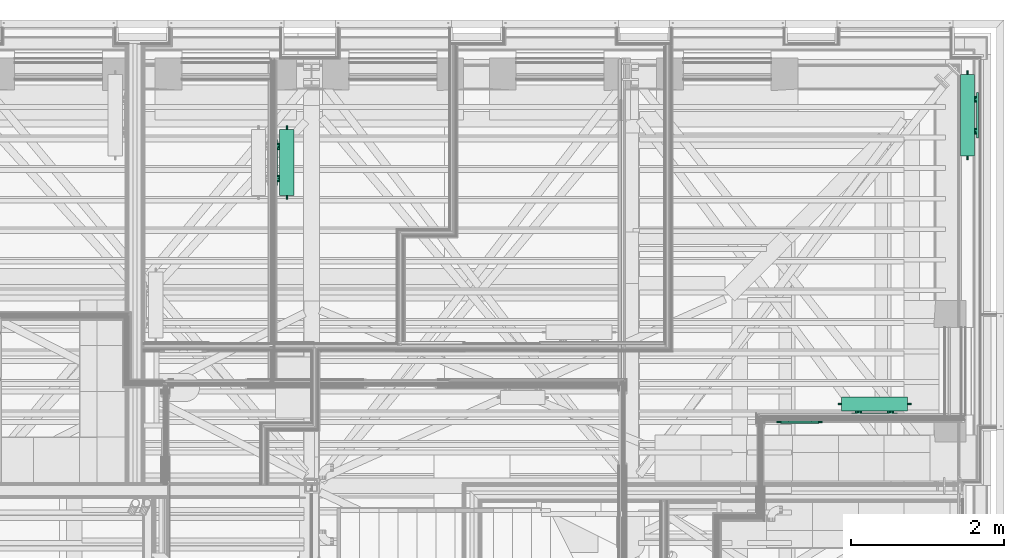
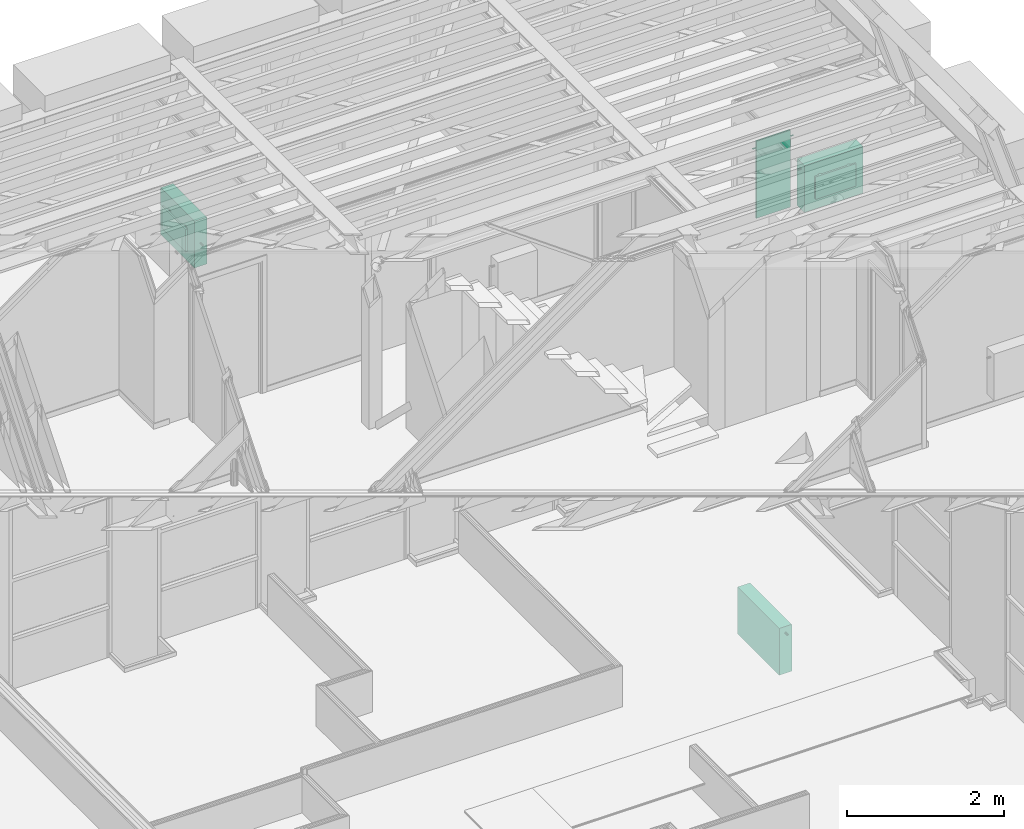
# One storey, part 169 of 183: 4 flow terminals.
"""IFC2X3 building model written with IfcOpenShell, lengths in metres."""

from ifc_helpers import new_model, entity, si_unit, converted_unit, derived_unit, money_unit, direction, frame, origin_with_axes, place, context, subcontext, project, spatial, open_shell, surface_model, material, type_object, element, save


model = new_model("IFC2X3")

# Units and contexts
model_context = context("Model", 3, precision=1e-05, world=origin_with_axes(), true_north=direction((0.0, 1.0)))
body_context = subcontext(model_context, "Body", "Model", "MODEL_VIEW", scale=1.0)
ifc_project = project(units=[si_unit("LENGTHUNIT", "METRE"), si_unit("AREAUNIT", "SQUARE_METRE"), si_unit("VOLUMEUNIT", "CUBIC_METRE"), si_unit("ABSORBEDDOSEUNIT", "GRAY"), si_unit("AMOUNTOFSUBSTANCEUNIT", "MOLE"), si_unit("DOSEEQUIVALENTUNIT", "SIEVERT"), si_unit("ELECTRICCAPACITANCEUNIT", "FARAD"), si_unit("ELECTRICCHARGEUNIT", "COULOMB"), si_unit("ELECTRICCONDUCTANCEUNIT", "SIEMENS"), si_unit("ELECTRICCURRENTUNIT", "AMPERE"), si_unit("ELECTRICRESISTANCEUNIT", "OHM"), si_unit("ELECTRICVOLTAGEUNIT", "VOLT"), si_unit("ENERGYUNIT", "JOULE"), si_unit("FORCEUNIT", "NEWTON"), si_unit("FREQUENCYUNIT", "HERTZ"), si_unit("ILLUMINANCEUNIT", "LUX"), si_unit("INDUCTANCEUNIT", "HENRY"), si_unit("LUMINOUSFLUXUNIT", "LUMEN"), si_unit("LUMINOUSINTENSITYUNIT", "CANDELA"), si_unit("MAGNETICFLUXDENSITYUNIT", "TESLA"), si_unit("MAGNETICFLUXUNIT", "WEBER"), si_unit("MASSUNIT", "GRAM"), converted_unit("PLANEANGLEUNIT", "degree", entity("IfcReal", 0.0174532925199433), si_unit("PLANEANGLEUNIT", "RADIAN"), dimensions=[0, 0, 0, 0, 0, 0, 0]), si_unit("POWERUNIT", "WATT"), si_unit("PRESSUREUNIT", "PASCAL"), si_unit("RADIOACTIVITYUNIT", "BECQUEREL"), si_unit("SOLIDANGLEUNIT", "STERADIAN"), si_unit("THERMODYNAMICTEMPERATUREUNIT", "KELVIN"), si_unit("TIMEUNIT", "SECOND"), derived_unit("ACCELERATIONUNIT", [(si_unit("LENGTHUNIT", "METRE"), 1), (si_unit("TIMEUNIT", "SECOND"), -2)]), derived_unit("ANGULARVELOCITYUNIT", [(converted_unit("PLANEANGLEUNIT", "degree", entity("IfcReal", 0.0174532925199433), si_unit("PLANEANGLEUNIT", "RADIAN"), dimensions=[0, 0, 0, 0, 0, 0, 0]), 1), (si_unit("TIMEUNIT", "SECOND"), -1)]), derived_unit("CURVATUREUNIT", [(converted_unit("PLANEANGLEUNIT", "degree", entity("IfcReal", 0.0174532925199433), si_unit("PLANEANGLEUNIT", "RADIAN"), dimensions=[0, 0, 0, 0, 0, 0, 0]), 1), (si_unit("LENGTHUNIT", "METRE"), -1)]), derived_unit("DYNAMICVISCOSITYUNIT", [(si_unit("PRESSUREUNIT", "PASCAL"), 1), (si_unit("TIMEUNIT", "SECOND"), 1)]), derived_unit("HEATFLUXDENSITYUNIT", [(si_unit("POWERUNIT", "WATT"), 1), (si_unit("LENGTHUNIT", "METRE"), -2)]), derived_unit("HEATINGVALUEUNIT", [(si_unit("ENERGYUNIT", "JOULE"), 1), (si_unit("MASSUNIT", "GRAM"), -1)]), derived_unit("INTEGERCOUNTRATEUNIT", [(si_unit("TIMEUNIT", "SECOND"), -1)]), derived_unit("IONCONCENTRATIONUNIT", [(si_unit("MASSUNIT", "GRAM"), 1), (si_unit("VOLUMEUNIT", "CUBIC_METRE"), -1)]), derived_unit("ISOTHERMALMOISTURECAPACITYUNIT", [(si_unit("VOLUMEUNIT", "CUBIC_METRE"), 1), (si_unit("MASSUNIT", "GRAM"), -1)]), derived_unit("KINEMATICVISCOSITYUNIT", [(si_unit("AREAUNIT", "SQUARE_METRE"), 1), (si_unit("TIMEUNIT", "SECOND"), -1)]), derived_unit("LINEARFORCEUNIT", [(si_unit("FORCEUNIT", "NEWTON"), 1), (si_unit("LENGTHUNIT", "METRE"), -1)]), derived_unit("LINEARMOMENTUNIT", [(si_unit("FORCEUNIT", "NEWTON"), 1), (si_unit("LENGTHUNIT", "METRE"), -1)]), derived_unit("LINEARSTIFFNESSUNIT", [(si_unit("FORCEUNIT", "NEWTON"), 1), (si_unit("LENGTHUNIT", "METRE"), -1)]), derived_unit("LINEARVELOCITYUNIT", [(si_unit("LENGTHUNIT", "METRE"), 1), (si_unit("TIMEUNIT", "SECOND"), -1)]), derived_unit("LUMINOUSINTENSITYDISTRIBUTIONUNIT", [(si_unit("LUMINOUSINTENSITYUNIT", "CANDELA"), 1), (si_unit("LUMINOUSFLUXUNIT", "LUMEN"), -1)]), derived_unit("MASSDENSITYUNIT", [(si_unit("MASSUNIT", "GRAM"), 1), (si_unit("VOLUMEUNIT", "CUBIC_METRE"), -1)]), derived_unit("MASSFLOWRATEUNIT", [(si_unit("MASSUNIT", "GRAM"), 1), (si_unit("TIMEUNIT", "SECOND"), -1)]), derived_unit("MASSPERLENGTHUNIT", [(si_unit("MASSUNIT", "GRAM"), 1), (si_unit("LENGTHUNIT", "METRE"), -1)]), derived_unit("MODULUSOFELASTICITYUNIT", [(si_unit("FORCEUNIT", "NEWTON"), 1), (si_unit("AREAUNIT", "SQUARE_METRE"), -1)]), derived_unit("MODULUSOFLINEARSUBGRADEREACTIONUNIT", [(si_unit("FORCEUNIT", "NEWTON"), 1), (si_unit("LENGTHUNIT", "METRE"), -2)]), derived_unit("MODULUSOFROTATIONALSUBGRADEREACTIONUNIT", [(si_unit("FORCEUNIT", "NEWTON"), 1), (si_unit("LENGTHUNIT", "METRE"), 1)]), derived_unit("MODULUSOFSUBGRADEREACTIONUNIT", [(si_unit("FORCEUNIT", "NEWTON"), 1), (si_unit("VOLUMEUNIT", "CUBIC_METRE"), -1)]), derived_unit("MOISTUREDIFFUSIVITYUNIT", [(si_unit("VOLUMEUNIT", "CUBIC_METRE"), 1), (si_unit("TIMEUNIT", "SECOND"), -1)]), derived_unit("MOLECULARWEIGHTUNIT", [(si_unit("MASSUNIT", "GRAM"), 1), (si_unit("AMOUNTOFSUBSTANCEUNIT", "MOLE"), -1)]), derived_unit("PLANARFORCEUNIT", [(si_unit("FORCEUNIT", "NEWTON"), 1), (si_unit("LENGTHUNIT", "METRE"), -2)]), derived_unit("ROTATIONALFREQUENCYUNIT", [(si_unit("TIMEUNIT", "SECOND"), -1)]), derived_unit("ROTATIONALMASSUNIT", [(si_unit("MASSUNIT", "GRAM"), 1), (si_unit("LENGTHUNIT", "METRE"), 2)]), derived_unit("ROTATIONALSTIFFNESSUNIT", [(si_unit("FORCEUNIT", "NEWTON"), 1), (si_unit("LENGTHUNIT", "METRE"), 1), (converted_unit("PLANEANGLEUNIT", "degree", entity("IfcReal", 0.0174532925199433), si_unit("PLANEANGLEUNIT", "RADIAN"), dimensions=[0, 0, 0, 0, 0, 0, 0]), -1)]), derived_unit("SECTIONAREAINTEGRALUNIT", [(si_unit("LENGTHUNIT", "METRE"), 5)]), derived_unit("SECTIONMODULUSUNIT", [(si_unit("LENGTHUNIT", "METRE"), 3)]), derived_unit("SHEARMODULUSUNIT", [(si_unit("FORCEUNIT", "NEWTON"), 1), (si_unit("AREAUNIT", "SQUARE_METRE"), -1)]), derived_unit("SOUNDPOWERUNIT", [(si_unit("ENERGYUNIT", "JOULE"), 1), (si_unit("TIMEUNIT", "SECOND"), -1)]), derived_unit("SPECIFICHEATCAPACITYUNIT", [(si_unit("FORCEUNIT", "NEWTON"), 1), (si_unit("MASSUNIT", "GRAM"), -1), (si_unit("THERMODYNAMICTEMPERATUREUNIT", "KELVIN"), -1)]), derived_unit("TEMPERATUREGRADIENTUNIT", [(si_unit("THERMODYNAMICTEMPERATUREUNIT", "KELVIN"), 1), (si_unit("LENGTHUNIT", "METRE"), -1)]), derived_unit("THERMALADMITTANCEUNIT", [(si_unit("POWERUNIT", "WATT"), 1), (si_unit("AREAUNIT", "SQUARE_METRE"), -1), (si_unit("THERMODYNAMICTEMPERATUREUNIT", "KELVIN"), -1)]), derived_unit("THERMALCONDUCTANCEUNIT", [(si_unit("POWERUNIT", "WATT"), 1), (si_unit("LENGTHUNIT", "METRE"), -1), (si_unit("THERMODYNAMICTEMPERATUREUNIT", "KELVIN"), -1)]), derived_unit("THERMALEXPANSIONCOEFFICIENTUNIT", [(si_unit("THERMODYNAMICTEMPERATUREUNIT", "KELVIN"), -1)]), derived_unit("THERMALRESISTANCEUNIT", [(si_unit("AREAUNIT", "SQUARE_METRE"), 1), (si_unit("POWERUNIT", "WATT"), -1)]), derived_unit("THERMALTRANSMITTANCEUNIT", [(si_unit("POWERUNIT", "WATT"), 1), (si_unit("AREAUNIT", "SQUARE_METRE"), -1), (si_unit("THERMODYNAMICTEMPERATUREUNIT", "KELVIN"), -1)]), derived_unit("TORQUEUNIT", [(si_unit("FORCEUNIT", "NEWTON"), 1), (si_unit("LENGTHUNIT", "METRE"), 1)]), derived_unit("VAPORPERMEABILITYUNIT", [(si_unit("MASSUNIT", "GRAM"), 1), (si_unit("TIMEUNIT", "SECOND"), -1)]), derived_unit("VOLUMETRICFLOWRATEUNIT", [(si_unit("VOLUMEUNIT", "CUBIC_METRE"), 1), (si_unit("TIMEUNIT", "SECOND"), -1)]), derived_unit("WARPINGCONSTANTUNIT", [(si_unit("LENGTHUNIT", "METRE"), 6)]), derived_unit("WARPINGMOMENTUNIT", [(si_unit("FORCEUNIT", "NEWTON"), 1), (si_unit("LENGTHUNIT", "METRE"), 2)]), money_unit("GBP")], contexts=[model_context])

# Site, building, storey, space
site_placement = place(None, origin_with_axes())
site = spatial("IfcSite", under=ifc_project, at=site_placement, Name="Site", CompositionType="ELEMENT")
building_placement = place(site_placement, origin_with_axes())
building = spatial("IfcBuilding", under=site, at=building_placement, Name="Building01", CompositionType="ELEMENT")
storey_placement = place(building_placement, frame((0.0, 0.0, 5.15), z_axis=(0.0, 0.0, 1.0), x_axis=(1.0, 0.0, 0.0)))
storey = spatial("IfcBuildingStorey", under=building, at=storey_placement, Name="1F", CompositionType="ELEMENT", Elevation=5.15)
space_1_placement = place(storey_placement, frame((22.624794, 8.82, 0.017975), z_axis=(0.0, 0.0, 1.0), x_axis=(1.0, 0.0, 0.0)))
space_1 = spatial("IfcSpace", under=storey, at=space_1_placement, Name="k/d/l", CompositionType="ELEMENT", InteriorOrExteriorSpace="NOTDEFINED")

# Flow terminal
ifc_material = material(Name="M_BSUK_Ventilation")
space_heater_type_1 = type_object("IfcSpaceHeaterType", Name="M-BmvRadiatorpanel-Panel", PredefinedType="NOTDEFINED")
flow_terminal_1_placement = place(storey_placement, frame((26.50175, 14.187, 0.665), z_axis=(0.0, 0.0, 1.0), x_axis=(0.0, -1.0, 0.0)))
element("IfcFlowTerminal", 1, at=flow_terminal_1_placement, inside=space_1, type_object=space_heater_type_1, material=ifc_material, Name="M-BmvRadiatorpanel-Panel", ObjectType="M-BmvRadiatorpanel-Panel", context=body_context, shape_type="SurfaceModel", body=[
    surface_model("IfcShellBasedSurfaceModel", [(1.069, -0.0925, 0.365), (1.069, 0.0925, 0.365), (0.0, 0.0925, 0.365), (0.0, -0.0925, 0.365), (1.069, -0.0925, -0.365), (1.069, 0.0925, -0.365), (0.0, -0.0925, -0.365), (0.0, 0.0925, -0.365), (0.2345, 0.12025, 0.175), (0.8345, 0.12025, 0.175), (0.8345, 0.14525, 0.175), (0.2345, 0.14525, 0.175), (0.8345, 0.14525, -0.175), (0.2345, 0.14525, -0.175), (0.8345, 0.12025, -0.175), (0.2345, 0.12025, -0.175), (0.3245, 0.0925, 0.0775), (0.3245, 0.12025, 0.0775), (0.341721, 0.12025, 0.080925), (0.341721, 0.0925, 0.080925), (0.35632, 0.12025, 0.09068), (0.35632, 0.0925, 0.09068), (0.366075, 0.12025, 0.105279), (0.366075, 0.0925, 0.105279), (0.3695, 0.12025, 0.1225), (0.3695, 0.0925, 0.1225), (0.366075, 0.12025, 0.139721), (0.366075, 0.0925, 0.139721), (0.35632, 0.12025, 0.15432), (0.35632, 0.0925, 0.15432), (0.341721, 0.12025, 0.164075), (0.341721, 0.0925, 0.164075), (0.3245, 0.12025, 0.1675), (0.3245, 0.0925, 0.1675), (0.307279, 0.12025, 0.164075), (0.307279, 0.0925, 0.164075), (0.29268, 0.12025, 0.15432), (0.29268, 0.0925, 0.15432), (0.282925, 0.12025, 0.139721), (0.282925, 0.0925, 0.139721), (0.2795, 0.12025, 0.1225), (0.2795, 0.0925, 0.1225), (0.282925, 0.12025, 0.105279), (0.282925, 0.0925, 0.105279), (0.29268, 0.12025, 0.09068), (0.29268, 0.0925, 0.09068), (0.307279, 0.12025, 0.080925), (0.307279, 0.0925, 0.080925), (0.7445, 0.0925, 0.0775), (0.7445, 0.12025, 0.0775), (0.761721, 0.12025, 0.080925), (0.761721, 0.0925, 0.080925), (0.77632, 0.12025, 0.09068), (0.77632, 0.0925, 0.09068), (0.786075, 0.12025, 0.105279), (0.786075, 0.0925, 0.105279), (0.7895, 0.12025, 0.1225), (0.7895, 0.0925, 0.1225), (0.786075, 0.12025, 0.139721), (0.786075, 0.0925, 0.139721), (0.77632, 0.12025, 0.15432), (0.77632, 0.0925, 0.15432), (0.761721, 0.12025, 0.164075), (0.761721, 0.0925, 0.164075), (0.7445, 0.12025, 0.1675), (0.7445, 0.0925, 0.1675), (0.727279, 0.12025, 0.164075), (0.727279, 0.0925, 0.164075), (0.71268, 0.12025, 0.15432), (0.71268, 0.0925, 0.15432), (0.702925, 0.12025, 0.139721), (0.702925, 0.0925, 0.139721), (0.6995, 0.12025, 0.1225), (0.6995, 0.0925, 0.1225), (0.702925, 0.12025, 0.105279), (0.702925, 0.0925, 0.105279), (0.71268, 0.12025, 0.09068), (0.71268, 0.0925, 0.09068), (0.727279, 0.12025, 0.080925), (0.727279, 0.0925, 0.080925), (-0.05, 0.0, -0.0225), (0.0, 0.0, -0.0225), (0.0, -0.004784, -0.021548), (-0.05, -0.004784, -0.021548), (0.0, -0.008839, -0.018839), (-0.05, -0.008839, -0.018839), (0.0, -0.011548, -0.014784), (-0.05, -0.011548, -0.014784), (0.0, -0.0125, -0.01), (-0.05, -0.0125, -0.01), (0.0, -0.011548, -0.005216), (-0.05, -0.011548, -0.005216), (0.0, -0.008839, -0.001161), (-0.05, -0.008839, -0.001161), (0.0, -0.004784, 0.001548), (-0.05, -0.004784, 0.001548), (0.0, 0.0, 0.0025), (-0.05, 0.0, 0.0025), (0.0, 0.004784, 0.001548), (-0.05, 0.004784, 0.001548), (0.0, 0.008839, -0.001161), (-0.05, 0.008839, -0.001161), (0.0, 0.011548, -0.005216), (-0.05, 0.011548, -0.005216), (0.0, 0.0125, -0.01), (-0.05, 0.0125, -0.01), (0.0, 0.011548, -0.014784), (-0.05, 0.011548, -0.014784), (0.0, 0.008839, -0.018839), (-0.05, 0.008839, -0.018839), (0.0, 0.004784, -0.021548), (-0.05, 0.004784, -0.021548), (1.119, 0.0, 0.2525), (1.069, 0.0, 0.2525), (1.069, 0.004784, 0.253452), (1.119, 0.004784, 0.253452), (1.069, 0.008839, 0.256161), (1.119, 0.008839, 0.256161), (1.069, 0.011548, 0.260216), (1.119, 0.011548, 0.260216), (1.069, 0.0125, 0.265), (1.119, 0.0125, 0.265), (1.069, 0.011548, 0.269784), (1.119, 0.011548, 0.269784), (1.069, 0.008839, 0.273839), (1.119, 0.008839, 0.273839), (1.069, 0.004784, 0.276548), (1.119, 0.004784, 0.276548), (1.069, 0.0, 0.2775), (1.119, 0.0, 0.2775), (1.069, -0.004784, 0.276548), (1.119, -0.004784, 0.276548), (1.069, -0.008839, 0.273839), (1.119, -0.008839, 0.273839), (1.069, -0.011548, 0.269784), (1.119, -0.011548, 0.269784), (1.069, -0.0125, 0.265), (1.119, -0.0125, 0.265), (1.069, -0.011548, 0.260216), (1.119, -0.011548, 0.260216), (1.069, -0.008839, 0.256161), (1.119, -0.008839, 0.256161), (1.069, -0.004784, 0.253452), (1.119, -0.004784, 0.253452)], [open_shell([[[0, 1, 2, 3]], [[4, 5, 1, 0]], [[6, 7, 5, 4]], [[3, 2, 7, 6]], [[1, 5, 7, 2]], [[3, 6, 4, 0]], [[8, 9, 10, 11]], [[11, 10, 12, 13]], [[13, 12, 14, 15]], [[15, 14, 9, 8]], [[9, 14, 12, 10]], [[11, 13, 15, 8]], [[16, 17, 18, 19]], [[19, 18, 20, 21]], [[21, 20, 22, 23]], [[23, 22, 24, 25]], [[25, 24, 26, 27]], [[27, 26, 28, 29]], [[29, 28, 30, 31]], [[31, 30, 32, 33]], [[33, 32, 34, 35]], [[35, 34, 36, 37]], [[37, 36, 38, 39]], [[39, 38, 40, 41]], [[41, 40, 42, 43]], [[43, 42, 44, 45]], [[45, 44, 46, 47]], [[47, 46, 17, 16]], [[48, 49, 50, 51]], [[51, 50, 52, 53]], [[53, 52, 54, 55]], [[55, 54, 56, 57]], [[57, 56, 58, 59]], [[59, 58, 60, 61]], [[61, 60, 62, 63]], [[63, 62, 64, 65]], [[65, 64, 66, 67]], [[67, 66, 68, 69]], [[69, 68, 70, 71]], [[71, 70, 72, 73]], [[73, 72, 74, 75]], [[75, 74, 76, 77]], [[77, 76, 78, 79]], [[79, 78, 49, 48]], [[80, 81, 82, 83]], [[83, 82, 84, 85]], [[85, 84, 86, 87]], [[87, 86, 88, 89]], [[89, 88, 90, 91]], [[91, 90, 92, 93]], [[93, 92, 94, 95]], [[95, 94, 96, 97]], [[97, 96, 98, 99]], [[99, 98, 100, 101]], [[101, 100, 102, 103]], [[103, 102, 104, 105]], [[105, 104, 106, 107]], [[107, 106, 108, 109]], [[109, 108, 110, 111]], [[111, 110, 81, 80]], [[112, 113, 114, 115]], [[115, 114, 116, 117]], [[117, 116, 118, 119]], [[119, 118, 120, 121]], [[121, 120, 122, 123]], [[123, 122, 124, 125]], [[125, 124, 126, 127]], [[127, 126, 128, 129]], [[129, 128, 130, 131]], [[131, 130, 132, 133]], [[133, 132, 134, 135]], [[135, 134, 136, 137]], [[137, 136, 138, 139]], [[139, 138, 140, 141]], [[141, 140, 142, 143]], [[143, 142, 113, 112]]])]),
])

# Space
space_2_placement = place(storey_placement, frame((16.03844, 8.82, 9.81), z_axis=(0.0, 0.0, 1.0), x_axis=(0.0, -1.0, 0.0)))
space_2 = spatial("IfcSpace", under=storey, at=space_2_placement, Name="23", CompositionType="ELEMENT", InteriorOrExteriorSpace="NOTDEFINED")

# Flow terminals
flow_terminal_2_placement = place(storey_placement, frame((17.585226, 12.601764, 10.445), z_axis=(0.0, 0.0, 1.0), x_axis=(0.0, 1.0, 0.0)))
element("IfcFlowTerminal", 2, at=flow_terminal_2_placement, inside=space_2, type_object=space_heater_type_1, material=ifc_material, Name="M-BmvRadiatorpanel-Panel", ObjectType="M-BmvRadiatorpanel-Panel", context=body_context, shape_type="SurfaceModel", body=[
    surface_model("IfcShellBasedSurfaceModel", [(0.865, -0.0925, 0.365), (0.865, 0.0925, 0.365), (0.0, 0.0925, 0.365), (0.0, -0.0925, 0.365), (0.865, -0.0925, -0.365), (0.865, 0.0925, -0.365), (0.0, -0.0925, -0.365), (0.0, 0.0925, -0.365), (0.1325, 0.12025, 0.175), (0.7325, 0.12025, 0.175), (0.7325, 0.14525, 0.175), (0.1325, 0.14525, 0.175), (0.7325, 0.14525, -0.175), (0.1325, 0.14525, -0.175), (0.7325, 0.12025, -0.175), (0.1325, 0.12025, -0.175), (0.2225, 0.0925, 0.0775), (0.2225, 0.12025, 0.0775), (0.239721, 0.12025, 0.080925), (0.239721, 0.0925, 0.080925), (0.25432, 0.12025, 0.09068), (0.25432, 0.0925, 0.09068), (0.264075, 0.12025, 0.105279), (0.264075, 0.0925, 0.105279), (0.2675, 0.12025, 0.1225), (0.2675, 0.0925, 0.1225), (0.264075, 0.12025, 0.139721), (0.264075, 0.0925, 0.139721), (0.25432, 0.12025, 0.15432), (0.25432, 0.0925, 0.15432), (0.239721, 0.12025, 0.164075), (0.239721, 0.0925, 0.164075), (0.2225, 0.12025, 0.1675), (0.2225, 0.0925, 0.1675), (0.205279, 0.12025, 0.164075), (0.205279, 0.0925, 0.164075), (0.19068, 0.12025, 0.15432), (0.19068, 0.0925, 0.15432), (0.180925, 0.12025, 0.139721), (0.180925, 0.0925, 0.139721), (0.1775, 0.12025, 0.1225), (0.1775, 0.0925, 0.1225), (0.180925, 0.12025, 0.105279), (0.180925, 0.0925, 0.105279), (0.19068, 0.12025, 0.09068), (0.19068, 0.0925, 0.09068), (0.205279, 0.12025, 0.080925), (0.205279, 0.0925, 0.080925), (0.6425, 0.0925, 0.0775), (0.6425, 0.12025, 0.0775), (0.659721, 0.12025, 0.080925), (0.659721, 0.0925, 0.080925), (0.67432, 0.12025, 0.09068), (0.67432, 0.0925, 0.09068), (0.684075, 0.12025, 0.105279), (0.684075, 0.0925, 0.105279), (0.6875, 0.12025, 0.1225), (0.6875, 0.0925, 0.1225), (0.684075, 0.12025, 0.139721), (0.684075, 0.0925, 0.139721), (0.67432, 0.12025, 0.15432), (0.67432, 0.0925, 0.15432), (0.659721, 0.12025, 0.164075), (0.659721, 0.0925, 0.164075), (0.6425, 0.12025, 0.1675), (0.6425, 0.0925, 0.1675), (0.625279, 0.12025, 0.164075), (0.625279, 0.0925, 0.164075), (0.61068, 0.12025, 0.15432), (0.61068, 0.0925, 0.15432), (0.600925, 0.12025, 0.139721), (0.600925, 0.0925, 0.139721), (0.5975, 0.12025, 0.1225), (0.5975, 0.0925, 0.1225), (0.600925, 0.12025, 0.105279), (0.600925, 0.0925, 0.105279), (0.61068, 0.12025, 0.09068), (0.61068, 0.0925, 0.09068), (0.625279, 0.12025, 0.080925), (0.625279, 0.0925, 0.080925), (-0.05, 0.0, -0.0225), (0.0, 0.0, -0.0225), (0.0, -0.004784, -0.021548), (-0.05, -0.004784, -0.021548), (0.0, -0.008839, -0.018839), (-0.05, -0.008839, -0.018839), (0.0, -0.011548, -0.014784), (-0.05, -0.011548, -0.014784), (0.0, -0.0125, -0.01), (-0.05, -0.0125, -0.01), (0.0, -0.011548, -0.005216), (-0.05, -0.011548, -0.005216), (0.0, -0.008839, -0.001161), (-0.05, -0.008839, -0.001161), (0.0, -0.004784, 0.001548), (-0.05, -0.004784, 0.001548), (0.0, 0.0, 0.0025), (-0.05, 0.0, 0.0025), (0.0, 0.004784, 0.001548), (-0.05, 0.004784, 0.001548), (0.0, 0.008839, -0.001161), (-0.05, 0.008839, -0.001161), (0.0, 0.011548, -0.005216), (-0.05, 0.011548, -0.005216), (0.0, 0.0125, -0.01), (-0.05, 0.0125, -0.01), (0.0, 0.011548, -0.014784), (-0.05, 0.011548, -0.014784), (0.0, 0.008839, -0.018839), (-0.05, 0.008839, -0.018839), (0.0, 0.004784, -0.021548), (-0.05, 0.004784, -0.021548), (0.915, 0.0, 0.2525), (0.865, 0.0, 0.2525), (0.865, 0.004784, 0.253452), (0.915, 0.004784, 0.253452), (0.865, 0.008839, 0.256161), (0.915, 0.008839, 0.256161), (0.865, 0.011548, 0.260216), (0.915, 0.011548, 0.260216), (0.865, 0.0125, 0.265), (0.915, 0.0125, 0.265), (0.865, 0.011548, 0.269784), (0.915, 0.011548, 0.269784), (0.865, 0.008839, 0.273839), (0.915, 0.008839, 0.273839), (0.865, 0.004784, 0.276548), (0.915, 0.004784, 0.276548), (0.865, 0.0, 0.2775), (0.915, 0.0, 0.2775), (0.865, -0.004784, 0.276548), (0.915, -0.004784, 0.276548), (0.865, -0.008839, 0.273839), (0.915, -0.008839, 0.273839), (0.865, -0.011548, 0.269784), (0.915, -0.011548, 0.269784), (0.865, -0.0125, 0.265), (0.915, -0.0125, 0.265), (0.865, -0.011548, 0.260216), (0.915, -0.011548, 0.260216), (0.865, -0.008839, 0.256161), (0.915, -0.008839, 0.256161), (0.865, -0.004784, 0.253452), (0.915, -0.004784, 0.253452)], [open_shell([[[0, 1, 2, 3]], [[4, 5, 1, 0]], [[6, 7, 5, 4]], [[3, 2, 7, 6]], [[1, 5, 7, 2]], [[3, 6, 4, 0]], [[8, 9, 10, 11]], [[11, 10, 12, 13]], [[13, 12, 14, 15]], [[15, 14, 9, 8]], [[9, 14, 12, 10]], [[11, 13, 15, 8]], [[16, 17, 18, 19]], [[19, 18, 20, 21]], [[21, 20, 22, 23]], [[23, 22, 24, 25]], [[25, 24, 26, 27]], [[27, 26, 28, 29]], [[29, 28, 30, 31]], [[31, 30, 32, 33]], [[33, 32, 34, 35]], [[35, 34, 36, 37]], [[37, 36, 38, 39]], [[39, 38, 40, 41]], [[41, 40, 42, 43]], [[43, 42, 44, 45]], [[45, 44, 46, 47]], [[47, 46, 17, 16]], [[48, 49, 50, 51]], [[51, 50, 52, 53]], [[53, 52, 54, 55]], [[55, 54, 56, 57]], [[57, 56, 58, 59]], [[59, 58, 60, 61]], [[61, 60, 62, 63]], [[63, 62, 64, 65]], [[65, 64, 66, 67]], [[67, 66, 68, 69]], [[69, 68, 70, 71]], [[71, 70, 72, 73]], [[73, 72, 74, 75]], [[75, 74, 76, 77]], [[77, 76, 78, 79]], [[79, 78, 49, 48]], [[80, 81, 82, 83]], [[83, 82, 84, 85]], [[85, 84, 86, 87]], [[87, 86, 88, 89]], [[89, 88, 90, 91]], [[91, 90, 92, 93]], [[93, 92, 94, 95]], [[95, 94, 96, 97]], [[97, 96, 98, 99]], [[99, 98, 100, 101]], [[101, 100, 102, 103]], [[103, 102, 104, 105]], [[105, 104, 106, 107]], [[107, 106, 108, 109]], [[109, 108, 110, 111]], [[111, 110, 81, 80]], [[112, 113, 114, 115]], [[115, 114, 116, 117]], [[117, 116, 118, 119]], [[119, 118, 120, 121]], [[121, 120, 122, 123]], [[123, 122, 124, 125]], [[125, 124, 126, 127]], [[127, 126, 128, 129]], [[129, 128, 130, 131]], [[131, 130, 132, 133]], [[133, 132, 134, 135]], [[135, 134, 136, 137]], [[137, 136, 138, 139]], [[139, 138, 140, 141]], [[141, 140, 142, 143]], [[143, 142, 113, 112]]])]),
])
flow_terminal_3_placement = place(storey_placement, frame((25.717389, 9.870165, 10.445), z_axis=(0.0, 0.0, 1.0), x_axis=(-1.0, 0.0, 0.0)))
element("IfcFlowTerminal", 3, at=flow_terminal_3_placement, inside=space_2, type_object=space_heater_type_1, material=ifc_material, Name="M-BmvRadiatorpanel-Panel", ObjectType="M-BmvRadiatorpanel-Panel", context=body_context, shape_type="SurfaceModel", body=[
    surface_model("IfcShellBasedSurfaceModel", [(0.865, -0.0925, 0.365), (0.865, 0.0925, 0.365), (0.0, 0.0925, 0.365), (0.0, -0.0925, 0.365), (0.865, -0.0925, -0.365), (0.865, 0.0925, -0.365), (0.0, -0.0925, -0.365), (0.0, 0.0925, -0.365), (0.1325, 0.12025, 0.175), (0.7325, 0.12025, 0.175), (0.7325, 0.14525, 0.175), (0.1325, 0.14525, 0.175), (0.7325, 0.14525, -0.175), (0.1325, 0.14525, -0.175), (0.7325, 0.12025, -0.175), (0.1325, 0.12025, -0.175), (0.2225, 0.0925, 0.0775), (0.2225, 0.12025, 0.0775), (0.239721, 0.12025, 0.080925), (0.239721, 0.0925, 0.080925), (0.25432, 0.12025, 0.09068), (0.25432, 0.0925, 0.09068), (0.264075, 0.12025, 0.105279), (0.264075, 0.0925, 0.105279), (0.2675, 0.12025, 0.1225), (0.2675, 0.0925, 0.1225), (0.264075, 0.12025, 0.139721), (0.264075, 0.0925, 0.139721), (0.25432, 0.12025, 0.15432), (0.25432, 0.0925, 0.15432), (0.239721, 0.12025, 0.164075), (0.239721, 0.0925, 0.164075), (0.2225, 0.12025, 0.1675), (0.2225, 0.0925, 0.1675), (0.205279, 0.12025, 0.164075), (0.205279, 0.0925, 0.164075), (0.19068, 0.12025, 0.15432), (0.19068, 0.0925, 0.15432), (0.180925, 0.12025, 0.139721), (0.180925, 0.0925, 0.139721), (0.1775, 0.12025, 0.1225), (0.1775, 0.0925, 0.1225), (0.180925, 0.12025, 0.105279), (0.180925, 0.0925, 0.105279), (0.19068, 0.12025, 0.09068), (0.19068, 0.0925, 0.09068), (0.205279, 0.12025, 0.080925), (0.205279, 0.0925, 0.080925), (0.6425, 0.0925, 0.0775), (0.6425, 0.12025, 0.0775), (0.659721, 0.12025, 0.080925), (0.659721, 0.0925, 0.080925), (0.67432, 0.12025, 0.09068), (0.67432, 0.0925, 0.09068), (0.684075, 0.12025, 0.105279), (0.684075, 0.0925, 0.105279), (0.6875, 0.12025, 0.1225), (0.6875, 0.0925, 0.1225), (0.684075, 0.12025, 0.139721), (0.684075, 0.0925, 0.139721), (0.67432, 0.12025, 0.15432), (0.67432, 0.0925, 0.15432), (0.659721, 0.12025, 0.164075), (0.659721, 0.0925, 0.164075), (0.6425, 0.12025, 0.1675), (0.6425, 0.0925, 0.1675), (0.625279, 0.12025, 0.164075), (0.625279, 0.0925, 0.164075), (0.61068, 0.12025, 0.15432), (0.61068, 0.0925, 0.15432), (0.600925, 0.12025, 0.139721), (0.600925, 0.0925, 0.139721), (0.5975, 0.12025, 0.1225), (0.5975, 0.0925, 0.1225), (0.600925, 0.12025, 0.105279), (0.600925, 0.0925, 0.105279), (0.61068, 0.12025, 0.09068), (0.61068, 0.0925, 0.09068), (0.625279, 0.12025, 0.080925), (0.625279, 0.0925, 0.080925), (-0.05, 0.0, -0.0225), (0.0, 0.0, -0.0225), (0.0, -0.004784, -0.021548), (-0.05, -0.004784, -0.021548), (0.0, -0.008839, -0.018839), (-0.05, -0.008839, -0.018839), (0.0, -0.011548, -0.014784), (-0.05, -0.011548, -0.014784), (0.0, -0.0125, -0.01), (-0.05, -0.0125, -0.01), (0.0, -0.011548, -0.005216), (-0.05, -0.011548, -0.005216), (0.0, -0.008839, -0.001161), (-0.05, -0.008839, -0.001161), (0.0, -0.004784, 0.001548), (-0.05, -0.004784, 0.001548), (0.0, 0.0, 0.0025), (-0.05, 0.0, 0.0025), (0.0, 0.004784, 0.001548), (-0.05, 0.004784, 0.001548), (0.0, 0.008839, -0.001161), (-0.05, 0.008839, -0.001161), (0.0, 0.011548, -0.005216), (-0.05, 0.011548, -0.005216), (0.0, 0.0125, -0.01), (-0.05, 0.0125, -0.01), (0.0, 0.011548, -0.014784), (-0.05, 0.011548, -0.014784), (0.0, 0.008839, -0.018839), (-0.05, 0.008839, -0.018839), (0.0, 0.004784, -0.021548), (-0.05, 0.004784, -0.021548), (0.915, 0.0, 0.2525), (0.865, 0.0, 0.2525), (0.865, 0.004784, 0.253452), (0.915, 0.004784, 0.253452), (0.865, 0.008839, 0.256161), (0.915, 0.008839, 0.256161), (0.865, 0.011548, 0.260216), (0.915, 0.011548, 0.260216), (0.865, 0.0125, 0.265), (0.915, 0.0125, 0.265), (0.865, 0.011548, 0.269784), (0.915, 0.011548, 0.269784), (0.865, 0.008839, 0.273839), (0.915, 0.008839, 0.273839), (0.865, 0.004784, 0.276548), (0.915, 0.004784, 0.276548), (0.865, 0.0, 0.2775), (0.915, 0.0, 0.2775), (0.865, -0.004784, 0.276548), (0.915, -0.004784, 0.276548), (0.865, -0.008839, 0.273839), (0.915, -0.008839, 0.273839), (0.865, -0.011548, 0.269784), (0.915, -0.011548, 0.269784), (0.865, -0.0125, 0.265), (0.915, -0.0125, 0.265), (0.865, -0.011548, 0.260216), (0.915, -0.011548, 0.260216), (0.865, -0.008839, 0.256161), (0.915, -0.008839, 0.256161), (0.865, -0.004784, 0.253452), (0.915, -0.004784, 0.253452)], [open_shell([[[0, 1, 2, 3]], [[4, 5, 1, 0]], [[6, 7, 5, 4]], [[3, 2, 7, 6]], [[1, 5, 7, 2]], [[3, 6, 4, 0]], [[8, 9, 10, 11]], [[11, 10, 12, 13]], [[13, 12, 14, 15]], [[15, 14, 9, 8]], [[9, 14, 12, 10]], [[11, 13, 15, 8]], [[16, 17, 18, 19]], [[19, 18, 20, 21]], [[21, 20, 22, 23]], [[23, 22, 24, 25]], [[25, 24, 26, 27]], [[27, 26, 28, 29]], [[29, 28, 30, 31]], [[31, 30, 32, 33]], [[33, 32, 34, 35]], [[35, 34, 36, 37]], [[37, 36, 38, 39]], [[39, 38, 40, 41]], [[41, 40, 42, 43]], [[43, 42, 44, 45]], [[45, 44, 46, 47]], [[47, 46, 17, 16]], [[48, 49, 50, 51]], [[51, 50, 52, 53]], [[53, 52, 54, 55]], [[55, 54, 56, 57]], [[57, 56, 58, 59]], [[59, 58, 60, 61]], [[61, 60, 62, 63]], [[63, 62, 64, 65]], [[65, 64, 66, 67]], [[67, 66, 68, 69]], [[69, 68, 70, 71]], [[71, 70, 72, 73]], [[73, 72, 74, 75]], [[75, 74, 76, 77]], [[77, 76, 78, 79]], [[79, 78, 49, 48]], [[80, 81, 82, 83]], [[83, 82, 84, 85]], [[85, 84, 86, 87]], [[87, 86, 88, 89]], [[89, 88, 90, 91]], [[91, 90, 92, 93]], [[93, 92, 94, 95]], [[95, 94, 96, 97]], [[97, 96, 98, 99]], [[99, 98, 100, 101]], [[101, 100, 102, 103]], [[103, 102, 104, 105]], [[105, 104, 106, 107]], [[107, 106, 108, 109]], [[109, 108, 110, 111]], [[111, 110, 81, 80]], [[112, 113, 114, 115]], [[115, 114, 116, 117]], [[117, 116, 118, 119]], [[119, 118, 120, 121]], [[121, 120, 122, 123]], [[123, 122, 124, 125]], [[125, 124, 126, 127]], [[127, 126, 128, 129]], [[129, 128, 130, 131]], [[131, 130, 132, 133]], [[133, 132, 134, 135]], [[135, 134, 136, 137]], [[137, 136, 138, 139]], [[139, 138, 140, 141]], [[141, 140, 142, 143]], [[143, 142, 113, 112]]])]),
])

# Space
space_3_placement = place(storey_placement, frame((23.258821, 8.349915, 9.81), z_axis=(0.0, 0.0, 1.0), x_axis=(0.0, -1.0, 0.0)))
space_3 = spatial("IfcSpace", under=storey, at=space_3_placement, Name="ensuite", CompositionType="ELEMENT", InteriorOrExteriorSpace="NOTDEFINED")

# Flow terminal
space_heater_type_2 = type_object("IfcSpaceHeaterType", Name="M-BmvRadiator-Column", PredefinedType="NOTDEFINED")
flow_terminal_4_placement = place(storey_placement, frame((24.052355, 9.632524, 10.965), z_axis=(0.0, 0.0, 1.0), x_axis=(1.0, 0.0, 0.0)))
element("IfcFlowTerminal", 4, at=flow_terminal_4_placement, inside=space_3, type_object=space_heater_type_2, material=ifc_material, Name="M-BmvRadiator-Column", ObjectType="M-BmvRadiator-Column", context=body_context, shape_type="SurfaceModel", body=[
    surface_model("IfcShellBasedSurfaceModel", [(0.0, -0.0125, 0.6), (0.0, -0.0125, -0.6), (0.0, 0.0125, -0.6), (0.0, 0.0125, 0.6), (0.5, -0.0125, 0.6), (0.5, -0.0125, -0.6), (0.5, 0.0125, -0.6), (0.5, 0.0125, 0.6), (0.1, 0.0125, 0.6), (0.1, -0.0125, 0.6), (0.1, -0.0125, -0.6), (0.1, 0.0125, -0.6), (0.2, 0.0125, 0.6), (0.2, -0.0125, 0.6), (0.2, -0.0125, -0.6), (0.2, 0.0125, -0.6), (0.3, 0.0125, 0.6), (0.3, -0.0125, 0.6), (0.3, -0.0125, -0.6), (0.3, 0.0125, -0.6), (0.4, 0.0125, 0.6), (0.4, -0.0125, 0.6), (0.4, -0.0125, -0.6), (0.4, 0.0125, -0.6), (-0.05, 0.0, 0.4825), (0.0, 0.0, 0.4825), (0.0, -0.003827, 0.483261), (-0.05, -0.003827, 0.483261), (0.0, -0.007071, 0.485429), (-0.05, -0.007071, 0.485429), (0.0, -0.009239, 0.488673), (-0.05, -0.009239, 0.488673), (0.0, -0.01, 0.4925), (-0.05, -0.01, 0.4925), (0.0, -0.009239, 0.496327), (-0.05, -0.009239, 0.496327), (0.0, -0.007071, 0.499571), (-0.05, -0.007071, 0.499571), (0.0, -0.003827, 0.501739), (-0.05, -0.003827, 0.501739), (0.0, 0.0, 0.5025), (-0.05, 0.0, 0.5025), (0.0, 0.003827, 0.501739), (-0.05, 0.003827, 0.501739), (0.0, 0.007071, 0.499571), (-0.05, 0.007071, 0.499571), (0.0, 0.009239, 0.496327), (-0.05, 0.009239, 0.496327), (0.0, 0.01, 0.4925), (-0.05, 0.01, 0.4925), (0.0, 0.009239, 0.488673), (-0.05, 0.009239, 0.488673), (0.0, 0.007071, 0.485429), (-0.05, 0.007071, 0.485429), (0.0, 0.003827, 0.483261), (-0.05, 0.003827, 0.483261), (0.55, 0.0, 0.4884), (0.5, 0.0, 0.4884), (0.5, 0.003827, 0.489161), (0.55, 0.003827, 0.489161), (0.5, 0.007071, 0.491329), (0.55, 0.007071, 0.491329), (0.5, 0.009239, 0.494573), (0.55, 0.009239, 0.494573), (0.5, 0.01, 0.4984), (0.55, 0.01, 0.4984), (0.5, 0.009239, 0.502227), (0.55, 0.009239, 0.502227), (0.5, 0.007071, 0.505471), (0.55, 0.007071, 0.505471), (0.5, 0.003827, 0.507639), (0.55, 0.003827, 0.507639), (0.5, 0.0, 0.5084), (0.55, 0.0, 0.5084), (0.5, -0.003827, 0.507639), (0.55, -0.003827, 0.507639), (0.5, -0.007071, 0.505471), (0.55, -0.007071, 0.505471), (0.5, -0.009239, 0.502227), (0.55, -0.009239, 0.502227), (0.5, -0.01, 0.4984), (0.55, -0.01, 0.4984), (0.5, -0.009239, 0.494573), (0.55, -0.009239, 0.494573), (0.5, -0.007071, 0.491329), (0.55, -0.007071, 0.491329), (0.5, -0.003827, 0.489161), (0.55, -0.003827, 0.489161)], [open_shell([[[0, 1, 2, 3]], [[4, 5, 6, 7]], [[8, 3, 0, 9]], [[9, 0, 1, 10]], [[10, 1, 2, 11]], [[11, 2, 3, 8]], [[12, 8, 9, 13]], [[13, 9, 10, 14]], [[14, 10, 11, 15]], [[15, 11, 8, 12]], [[16, 12, 13, 17]], [[17, 13, 14, 18]], [[18, 14, 15, 19]], [[19, 15, 12, 16]], [[20, 16, 17, 21]], [[21, 17, 18, 22]], [[22, 18, 19, 23]], [[23, 19, 16, 20]], [[7, 20, 21, 4]], [[4, 21, 22, 5]], [[5, 22, 23, 6]], [[6, 23, 20, 7]], [[24, 25, 26, 27]], [[27, 26, 28, 29]], [[29, 28, 30, 31]], [[31, 30, 32, 33]], [[33, 32, 34, 35]], [[35, 34, 36, 37]], [[37, 36, 38, 39]], [[39, 38, 40, 41]], [[41, 40, 42, 43]], [[43, 42, 44, 45]], [[45, 44, 46, 47]], [[47, 46, 48, 49]], [[49, 48, 50, 51]], [[51, 50, 52, 53]], [[53, 52, 54, 55]], [[55, 54, 25, 24]], [[56, 57, 58, 59]], [[59, 58, 60, 61]], [[61, 60, 62, 63]], [[63, 62, 64, 65]], [[65, 64, 66, 67]], [[67, 66, 68, 69]], [[69, 68, 70, 71]], [[71, 70, 72, 73]], [[73, 72, 74, 75]], [[75, 74, 76, 77]], [[77, 76, 78, 79]], [[79, 78, 80, 81]], [[81, 80, 82, 83]], [[83, 82, 84, 85]], [[85, 84, 86, 87]], [[87, 86, 57, 56]]])]),
])

save(model, "model.ifc")
